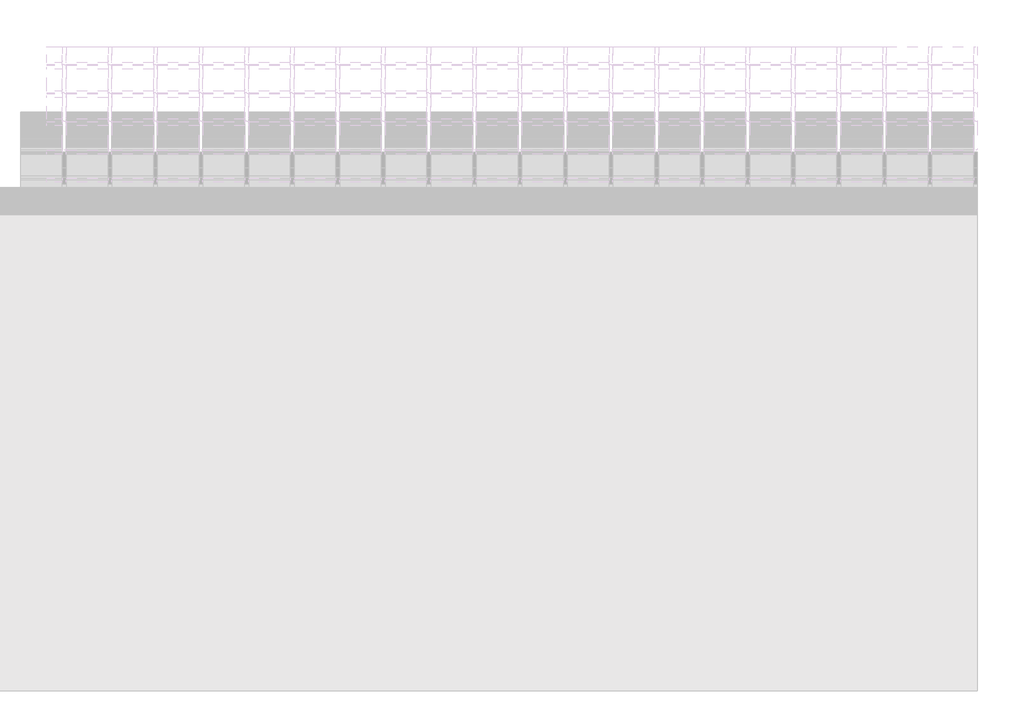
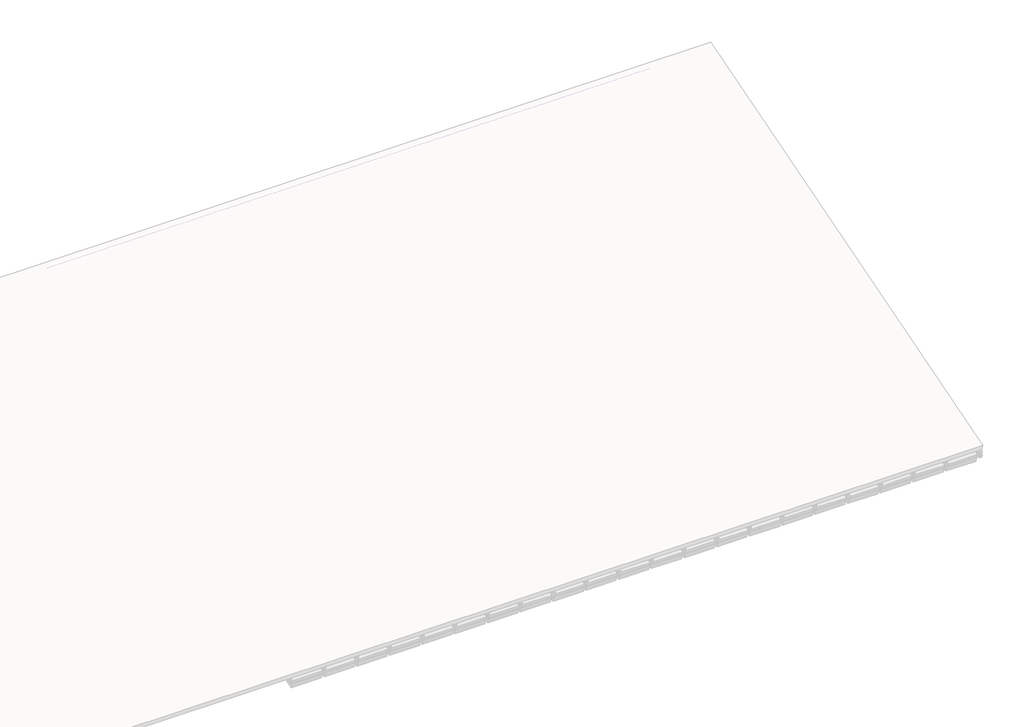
# One storey, part 48 of 57: 86 members, 38 plates.
"""IFC4 building model written with IfcOpenShell, lengths in millimetres."""

from ifc_helpers import new_model, si_unit, origin, place, context, project, spatial, transform, mapped, element, save
from components import rectangular_mullion_59984080, rectangular_mullion_2d2423ea, rectangular_mullion_caibro_e4384bba, rectangular_mullion_caibro_9bd7bc61, empty_system_panel_vazio_178faf58, empty_system_panel_vazio_2c78850d

model = new_model("IFC4")

# Units and contexts
model_context = context("Model", 3, world=origin())
ifc_project = project(units=[si_unit("LENGTHUNIT", "METRE", prefix="MILLI")], contexts=[model_context])

# Site, building, storey
site = spatial("IfcSite", under=ifc_project)
building = spatial("IfcBuilding", under=site)
storey = spatial("IfcBuildingStorey", under=building, Name="Nível 2", Elevation=4100.0)

# Members
placement = place(None, origin())
rectangular_mullion_shape = rectangular_mullion_59984080(model_context)
element("IfcMember", 1, ObjectType="Rectangular Mullion : Ripa", at=placement, inside=storey, context=model_context, shape_type="MappedRepresentation", body=[
    mapped(rectangular_mullion_shape, transform((38197.0207941, 10013.4695628, 4154.0900474), x_axis=(0.0, 0.9578262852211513, 0.2873478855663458), y_axis=(0.0, 0.2873478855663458, -0.9578262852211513), z_axis=(-1.0, 0.0, 0.0))),
])
element("IfcMember", 2, ObjectType="Rectangular Mullion : Ripa", at=placement, inside=storey, context=model_context, shape_type="MappedRepresentation", body=[
    mapped(rectangular_mullion_shape, transform((38794.0755505, 10013.4695628, 4154.0900474), x_axis=(0.0, 0.9578262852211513, 0.2873478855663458), y_axis=(0.0, 0.2873478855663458, -0.9578262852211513), z_axis=(-1.0, 0.0, 0.0))),
])
element("IfcMember", 3, ObjectType="Rectangular Mullion : Ripa", at=placement, inside=storey, context=model_context, shape_type="MappedRepresentation", body=[
    mapped(rectangular_mullion_shape, transform((39391.1303069, 10013.4695628, 4154.0900474), x_axis=(0.0, 0.9578262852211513, 0.2873478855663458), y_axis=(0.0, 0.2873478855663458, -0.9578262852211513), z_axis=(-1.0, 0.0, 0.0))),
])
element("IfcMember", 4, ObjectType="Rectangular Mullion : Ripa", at=placement, inside=storey, context=model_context, shape_type="MappedRepresentation", body=[
    mapped(rectangular_mullion_shape, transform((39988.1850634, 10013.4695628, 4154.0900474), x_axis=(0.0, 0.9578262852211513, 0.2873478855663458), y_axis=(0.0, 0.2873478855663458, -0.9578262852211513), z_axis=(-1.0, 0.0, 0.0))),
])
element("IfcMember", 5, ObjectType="Rectangular Mullion : Ripa", at=placement, inside=storey, context=model_context, shape_type="MappedRepresentation", body=[
    mapped(rectangular_mullion_shape, transform((38197.0207941, 10383.6468214, 4265.143225), x_axis=(0.0, 0.9578262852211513, 0.2873478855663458), y_axis=(0.0, 0.2873478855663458, -0.9578262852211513), z_axis=(-1.0, 0.0, 0.0))),
])
element("IfcMember", 6, ObjectType="Rectangular Mullion : Ripa", at=placement, inside=storey, context=model_context, shape_type="MappedRepresentation", body=[
    mapped(rectangular_mullion_shape, transform((38794.0755505, 10383.6468214, 4265.143225), x_axis=(0.0, 0.9578262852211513, 0.2873478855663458), y_axis=(0.0, 0.2873478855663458, -0.9578262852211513), z_axis=(-1.0, 0.0, 0.0))),
])
element("IfcMember", 7, ObjectType="Rectangular Mullion : Ripa", at=placement, inside=storey, context=model_context, shape_type="MappedRepresentation", body=[
    mapped(rectangular_mullion_shape, transform((39391.1303069, 10383.6468214, 4265.143225), x_axis=(0.0, 0.9578262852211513, 0.2873478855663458), y_axis=(0.0, 0.2873478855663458, -0.9578262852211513), z_axis=(-1.0, 0.0, 0.0))),
])
element("IfcMember", 8, ObjectType="Rectangular Mullion : Ripa", at=placement, inside=storey, context=model_context, shape_type="MappedRepresentation", body=[
    mapped(rectangular_mullion_shape, transform((39988.1850634, 10383.6468214, 4265.143225), x_axis=(0.0, 0.9578262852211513, 0.2873478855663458), y_axis=(0.0, 0.2873478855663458, -0.9578262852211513), z_axis=(-1.0, 0.0, 0.0))),
])
element("IfcMember", 9, ObjectType="Rectangular Mullion : Ripa", at=placement, inside=storey, context=model_context, shape_type="MappedRepresentation", body=[
    mapped(rectangular_mullion_shape, transform((38197.0207941, 10753.8240801, 4376.1964026), x_axis=(0.0, 0.9578262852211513, 0.2873478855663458), y_axis=(0.0, 0.2873478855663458, -0.9578262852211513), z_axis=(-1.0, 0.0, 0.0))),
])
element("IfcMember", 10, ObjectType="Rectangular Mullion : Ripa", at=placement, inside=storey, context=model_context, shape_type="MappedRepresentation", body=[
    mapped(rectangular_mullion_shape, transform((38794.0755505, 10753.8240801, 4376.1964026), x_axis=(0.0, 0.9578262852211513, 0.2873478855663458), y_axis=(0.0, 0.2873478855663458, -0.9578262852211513), z_axis=(-1.0, 0.0, 0.0))),
])
element("IfcMember", 11, ObjectType="Rectangular Mullion : Ripa", at=placement, inside=storey, context=model_context, shape_type="MappedRepresentation", body=[
    mapped(rectangular_mullion_shape, transform((39391.1303069, 10753.8240801, 4376.1964026), x_axis=(0.0, 0.9578262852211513, 0.2873478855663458), y_axis=(0.0, 0.2873478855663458, -0.9578262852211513), z_axis=(-1.0, 0.0, 0.0))),
])
element("IfcMember", 12, ObjectType="Rectangular Mullion : Ripa", at=placement, inside=storey, context=model_context, shape_type="MappedRepresentation", body=[
    mapped(rectangular_mullion_shape, transform((39988.1850634, 10753.8240801, 4376.1964026), x_axis=(0.0, 0.9578262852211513, 0.2873478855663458), y_axis=(0.0, 0.2873478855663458, -0.9578262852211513), z_axis=(-1.0, 0.0, 0.0))),
])
element("IfcMember", 13, ObjectType="Rectangular Mullion : Ripa", at=placement, inside=storey, context=model_context, shape_type="MappedRepresentation", body=[
    mapped(rectangular_mullion_shape, transform((37002.9112812, 11124.0013387, 4487.2495802), x_axis=(0.0, 0.9578262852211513, 0.2873478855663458), y_axis=(0.0, 0.2873478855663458, -0.9578262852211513), z_axis=(-1.0, 0.0, 0.0))),
])
element("IfcMember", 14, ObjectType="Rectangular Mullion : Ripa", at=placement, inside=storey, context=model_context, shape_type="MappedRepresentation", body=[
    mapped(rectangular_mullion_shape, transform((37599.9660377, 11124.0013387, 4487.2495802), x_axis=(0.0, 0.9578262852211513, 0.2873478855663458), y_axis=(0.0, 0.2873478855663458, -0.9578262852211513), z_axis=(-1.0, 0.0, 0.0))),
])
element("IfcMember", 15, ObjectType="Rectangular Mullion : Ripa", at=placement, inside=storey, context=model_context, shape_type="MappedRepresentation", body=[
    mapped(rectangular_mullion_shape, transform((38197.0207941, 11124.0013387, 4487.2495802), x_axis=(0.0, 0.9578262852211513, 0.2873478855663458), y_axis=(0.0, 0.2873478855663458, -0.9578262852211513), z_axis=(-1.0, 0.0, 0.0))),
])
element("IfcMember", 16, ObjectType="Rectangular Mullion : Ripa", at=placement, inside=storey, context=model_context, shape_type="MappedRepresentation", body=[
    mapped(rectangular_mullion_shape, transform((38794.0755505, 11124.0013387, 4487.2495802), x_axis=(0.0, 0.9578262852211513, 0.2873478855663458), y_axis=(0.0, 0.2873478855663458, -0.9578262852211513), z_axis=(-1.0, 0.0, 0.0))),
])
element("IfcMember", 17, ObjectType="Rectangular Mullion : Ripa", at=placement, inside=storey, context=model_context, shape_type="MappedRepresentation", body=[
    mapped(rectangular_mullion_shape, transform((39391.1303069, 11124.0013387, 4487.2495802), x_axis=(0.0, 0.9578262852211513, 0.2873478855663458), y_axis=(0.0, 0.2873478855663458, -0.9578262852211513), z_axis=(-1.0, 0.0, 0.0))),
])
element("IfcMember", 18, ObjectType="Rectangular Mullion : Ripa", at=placement, inside=storey, context=model_context, shape_type="MappedRepresentation", body=[
    mapped(rectangular_mullion_shape, transform((39988.1850634, 11124.0013387, 4487.2495802), x_axis=(0.0, 0.9578262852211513, 0.2873478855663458), y_axis=(0.0, 0.2873478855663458, -0.9578262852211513), z_axis=(-1.0, 0.0, 0.0))),
])
element("IfcMember", 19, ObjectType="Rectangular Mullion : Ripa", at=placement, inside=storey, context=model_context, shape_type="MappedRepresentation", body=[
    mapped(rectangular_mullion_shape, transform((37002.9112812, 11494.1785974, 4598.3027578), x_axis=(0.0, 0.9578262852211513, 0.2873478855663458), y_axis=(0.0, 0.2873478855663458, -0.9578262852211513), z_axis=(-1.0, 0.0, 0.0))),
])
element("IfcMember", 20, ObjectType="Rectangular Mullion : Ripa", at=placement, inside=storey, context=model_context, shape_type="MappedRepresentation", body=[
    mapped(rectangular_mullion_shape, transform((37599.9660377, 11494.1785974, 4598.3027578), x_axis=(0.0, 0.9578262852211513, 0.2873478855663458), y_axis=(0.0, 0.2873478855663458, -0.9578262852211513), z_axis=(-1.0, 0.0, 0.0))),
])
element("IfcMember", 21, ObjectType="Rectangular Mullion : Ripa", at=placement, inside=storey, context=model_context, shape_type="MappedRepresentation", body=[
    mapped(rectangular_mullion_shape, transform((38197.0207941, 11494.1785974, 4598.3027578), x_axis=(0.0, 0.9578262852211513, 0.2873478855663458), y_axis=(0.0, 0.2873478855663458, -0.9578262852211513), z_axis=(-1.0, 0.0, 0.0))),
])
element("IfcMember", 22, ObjectType="Rectangular Mullion : Ripa", at=placement, inside=storey, context=model_context, shape_type="MappedRepresentation", body=[
    mapped(rectangular_mullion_shape, transform((38794.0755505, 11494.1785974, 4598.3027578), x_axis=(0.0, 0.9578262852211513, 0.2873478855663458), y_axis=(0.0, 0.2873478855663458, -0.9578262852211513), z_axis=(-1.0, 0.0, 0.0))),
])
element("IfcMember", 23, ObjectType="Rectangular Mullion : Ripa", at=placement, inside=storey, context=model_context, shape_type="MappedRepresentation", body=[
    mapped(rectangular_mullion_shape, transform((39391.1303069, 11494.1785974, 4598.3027578), x_axis=(0.0, 0.9578262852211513, 0.2873478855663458), y_axis=(0.0, 0.2873478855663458, -0.9578262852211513), z_axis=(-1.0, 0.0, 0.0))),
])
element("IfcMember", 24, ObjectType="Rectangular Mullion : Ripa", at=placement, inside=storey, context=model_context, shape_type="MappedRepresentation", body=[
    mapped(rectangular_mullion_shape, transform((39988.1850634, 11494.1785974, 4598.3027578), x_axis=(0.0, 0.9578262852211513, 0.2873478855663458), y_axis=(0.0, 0.2873478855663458, -0.9578262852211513), z_axis=(-1.0, 0.0, 0.0))),
])
element("IfcMember", 25, ObjectType="Rectangular Mullion : Ripa", at=placement, inside=storey, context=model_context, shape_type="MappedRepresentation", body=[
    mapped(rectangular_mullion_shape, transform((37002.9112812, 11864.3558561, 4709.3559354), x_axis=(0.0, 0.9578262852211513, 0.2873478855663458), y_axis=(0.0, 0.2873478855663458, -0.9578262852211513), z_axis=(-1.0, 0.0, 0.0))),
])
element("IfcMember", 26, ObjectType="Rectangular Mullion : Ripa", at=placement, inside=storey, context=model_context, shape_type="MappedRepresentation", body=[
    mapped(rectangular_mullion_shape, transform((37599.9660377, 11864.3558561, 4709.3559354), x_axis=(0.0, 0.9578262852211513, 0.2873478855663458), y_axis=(0.0, 0.2873478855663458, -0.9578262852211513), z_axis=(-1.0, 0.0, 0.0))),
])
element("IfcMember", 27, ObjectType="Rectangular Mullion : Ripa", at=placement, inside=storey, context=model_context, shape_type="MappedRepresentation", body=[
    mapped(rectangular_mullion_shape, transform((38197.0207941, 11864.3558561, 4709.3559354), x_axis=(0.0, 0.9578262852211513, 0.2873478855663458), y_axis=(0.0, 0.2873478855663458, -0.9578262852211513), z_axis=(-1.0, 0.0, 0.0))),
])
element("IfcMember", 28, ObjectType="Rectangular Mullion : Ripa", at=placement, inside=storey, context=model_context, shape_type="MappedRepresentation", body=[
    mapped(rectangular_mullion_shape, transform((38794.0755505, 11864.3558561, 4709.3559354), x_axis=(0.0, 0.9578262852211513, 0.2873478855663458), y_axis=(0.0, 0.2873478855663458, -0.9578262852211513), z_axis=(-1.0, 0.0, 0.0))),
])
element("IfcMember", 29, ObjectType="Rectangular Mullion : Ripa", at=placement, inside=storey, context=model_context, shape_type="MappedRepresentation", body=[
    mapped(rectangular_mullion_shape, transform((39391.1303069, 11864.3558561, 4709.3559354), x_axis=(0.0, 0.9578262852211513, 0.2873478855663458), y_axis=(0.0, 0.2873478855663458, -0.9578262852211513), z_axis=(-1.0, 0.0, 0.0))),
])
element("IfcMember", 30, ObjectType="Rectangular Mullion : Ripa", at=placement, inside=storey, context=model_context, shape_type="MappedRepresentation", body=[
    mapped(rectangular_mullion_shape, transform((39988.1850634, 11864.3558561, 4709.3559354), x_axis=(0.0, 0.9578262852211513, 0.2873478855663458), y_axis=(0.0, 0.2873478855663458, -0.9578262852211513), z_axis=(-1.0, 0.0, 0.0))),
])
element("IfcMember", 31, ObjectType="Rectangular Mullion : Ripa", at=placement, inside=storey, context=model_context, shape_type="MappedRepresentation", body=[
    mapped(rectangular_mullion_shape, transform((32226.4732298, 12234.5331147, 4820.409113), x_axis=(0.0, 0.9578262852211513, 0.2873478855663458), y_axis=(0.0, 0.2873478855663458, -0.9578262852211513), z_axis=(-1.0, 0.0, 0.0))),
])
element("IfcMember", 32, ObjectType="Rectangular Mullion : Ripa", at=placement, inside=storey, context=model_context, shape_type="MappedRepresentation", body=[
    mapped(rectangular_mullion_shape, transform((32823.5279863, 12234.5331147, 4820.409113), x_axis=(0.0, 0.9578262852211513, 0.2873478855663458), y_axis=(0.0, 0.2873478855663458, -0.9578262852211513), z_axis=(-1.0, 0.0, 0.0))),
])
element("IfcMember", 33, ObjectType="Rectangular Mullion : Ripa", at=placement, inside=storey, context=model_context, shape_type="MappedRepresentation", body=[
    mapped(rectangular_mullion_shape, transform((32226.4732298, 12604.7103734, 4931.4622906), x_axis=(0.0, 0.9578262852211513, 0.2873478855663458), y_axis=(0.0, 0.2873478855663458, -0.9578262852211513), z_axis=(-1.0, 0.0, 0.0))),
])
element("IfcMember", 34, ObjectType="Rectangular Mullion : Ripa", at=placement, inside=storey, context=model_context, shape_type="MappedRepresentation", body=[
    mapped(rectangular_mullion_shape, transform((32823.5279863, 12604.7103734, 4931.4622906), x_axis=(0.0, 0.9578262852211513, 0.2873478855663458), y_axis=(0.0, 0.2873478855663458, -0.9578262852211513), z_axis=(-1.0, 0.0, 0.0))),
])
element("IfcMember", 35, ObjectType="Rectangular Mullion : Ripa", at=placement, inside=storey, context=model_context, shape_type="MappedRepresentation", body=[
    mapped(rectangular_mullion_shape, transform((32226.4732298, 12974.8876321, 5042.5154682), x_axis=(0.0, 0.9578262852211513, 0.2873478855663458), y_axis=(0.0, 0.2873478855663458, -0.9578262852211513), z_axis=(-1.0, 0.0, 0.0))),
])
element("IfcMember", 36, ObjectType="Rectangular Mullion : Ripa", at=placement, inside=storey, context=model_context, shape_type="MappedRepresentation", body=[
    mapped(rectangular_mullion_shape, transform((32823.5279863, 12974.8876321, 5042.5154682), x_axis=(0.0, 0.9578262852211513, 0.2873478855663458), y_axis=(0.0, 0.2873478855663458, -0.9578262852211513), z_axis=(-1.0, 0.0, 0.0))),
])
rectangular_mullion_2_shape = rectangular_mullion_2d2423ea(model_context)
element("IfcMember", 37, ObjectType="Rectangular Mullion : Terça", at=placement, inside=storey, context=model_context, shape_type="MappedRepresentation", body=[
    mapped(rectangular_mullion_2_shape, transform((36405.8565248, 11285.144311, 4472.9506328), x_axis=(0.0, 0.9578262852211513, 0.2873478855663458), y_axis=(0.0, 0.2873478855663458, -0.9578262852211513), z_axis=(-1.0, 0.0, 0.0))),
])
element("IfcMember", 38, ObjectType="Rectangular Mullion : Terça", at=placement, inside=storey, context=model_context, shape_type="MappedRepresentation", body=[
    mapped(rectangular_mullion_2_shape, transform((37002.9112812, 11285.144311, 4472.9506328), x_axis=(0.0, 0.9578262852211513, 0.2873478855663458), y_axis=(0.0, 0.2873478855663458, -0.9578262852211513), z_axis=(-1.0, 0.0, 0.0))),
])
element("IfcMember", 39, ObjectType="Rectangular Mullion : Terça", at=placement, inside=storey, context=model_context, shape_type="MappedRepresentation", body=[
    mapped(rectangular_mullion_2_shape, transform((37599.9660377, 11285.144311, 4472.9506328), x_axis=(0.0, 0.9578262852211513, 0.2873478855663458), y_axis=(0.0, 0.2873478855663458, -0.9578262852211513), z_axis=(-1.0, 0.0, 0.0))),
])
element("IfcMember", 40, ObjectType="Rectangular Mullion : Terça", at=placement, inside=storey, context=model_context, shape_type="MappedRepresentation", body=[
    mapped(rectangular_mullion_2_shape, transform((38197.0207941, 11285.144311, 4472.9506328), x_axis=(0.0, 0.9578262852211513, 0.2873478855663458), y_axis=(0.0, 0.2873478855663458, -0.9578262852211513), z_axis=(-1.0, 0.0, 0.0))),
])
element("IfcMember", 41, ObjectType="Rectangular Mullion : Terça", at=placement, inside=storey, context=model_context, shape_type="MappedRepresentation", body=[
    mapped(rectangular_mullion_2_shape, transform((38794.0755505, 11285.144311, 4472.9506328), x_axis=(0.0, 0.9578262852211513, 0.2873478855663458), y_axis=(0.0, 0.2873478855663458, -0.9578262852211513), z_axis=(-1.0, 0.0, 0.0))),
])
element("IfcMember", 42, ObjectType="Rectangular Mullion : Terça", at=placement, inside=storey, context=model_context, shape_type="MappedRepresentation", body=[
    mapped(rectangular_mullion_2_shape, transform((39391.1303069, 11285.144311, 4472.9506328), x_axis=(0.0, 0.9578262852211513, 0.2873478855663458), y_axis=(0.0, 0.2873478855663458, -0.9578262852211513), z_axis=(-1.0, 0.0, 0.0))),
])
element("IfcMember", 43, ObjectType="Rectangular Mullion : Terça", at=placement, inside=storey, context=model_context, shape_type="MappedRepresentation", body=[
    mapped(rectangular_mullion_2_shape, transform((39988.1850634, 11285.144311, 4472.9506328), x_axis=(0.0, 0.9578262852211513, 0.2873478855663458), y_axis=(0.0, 0.2873478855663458, -0.9578262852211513), z_axis=(-1.0, 0.0, 0.0))),
])
rectangular_mullion_caibro_shape = rectangular_mullion_caibro_e4384bba(model_context)
element("IfcMember", 44, ObjectType="Rectangular Mullion : Caibro", at=placement, inside=storey, context=model_context, shape_type="MappedRepresentation", body=[
    mapped(rectangular_mullion_caibro_shape, transform((32201.4732298, 12234.5331147, 4820.409113), x_axis=(1.0, 0.0, 0.0), y_axis=(0.0, 0.2873478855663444, -0.9578262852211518), z_axis=(0.0, 0.9578262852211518, 0.2873478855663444))),
])
element("IfcMember", 45, ObjectType="Rectangular Mullion : Caibro", at=placement, inside=storey, context=model_context, shape_type="MappedRepresentation", body=[
    mapped(rectangular_mullion_caibro_shape, transform((32201.4732298, 12604.7103734, 4931.4622906), x_axis=(1.0, 0.0, 0.0), y_axis=(0.0, 0.28734788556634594, -0.9578262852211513), z_axis=(0.0, 0.9578262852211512, 0.2873478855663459))),
])
element("IfcMember", 46, ObjectType="Rectangular Mullion : Caibro", at=placement, inside=storey, context=model_context, shape_type="MappedRepresentation", body=[
    mapped(rectangular_mullion_caibro_shape, transform((32201.4732298, 12974.8876321, 5042.5154682), x_axis=(1.0, 0.0, 0.0), y_axis=(0.0, 0.28734788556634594, -0.9578262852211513), z_axis=(0.0, 0.9578262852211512, 0.2873478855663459))),
])
element("IfcMember", 47, ObjectType="Rectangular Mullion : Caibro", at=placement, inside=storey, context=model_context, shape_type="MappedRepresentation", body=[
    mapped(rectangular_mullion_caibro_shape, transform((32798.5279863, 12234.5331147, 4820.409113), x_axis=(1.0, 0.0, 0.0), y_axis=(0.0, 0.2873478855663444, -0.9578262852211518), z_axis=(0.0, 0.9578262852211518, 0.2873478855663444))),
])
element("IfcMember", 48, ObjectType="Rectangular Mullion : Caibro", at=placement, inside=storey, context=model_context, shape_type="MappedRepresentation", body=[
    mapped(rectangular_mullion_caibro_shape, transform((32798.5279863, 12604.7103734, 4931.4622906), x_axis=(1.0, 0.0, 0.0), y_axis=(0.0, 0.28734788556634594, -0.9578262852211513), z_axis=(0.0, 0.9578262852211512, 0.2873478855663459))),
])
element("IfcMember", 49, ObjectType="Rectangular Mullion : Caibro", at=placement, inside=storey, context=model_context, shape_type="MappedRepresentation", body=[
    mapped(rectangular_mullion_caibro_shape, transform((32798.5279863, 12974.8876321, 5042.5154682), x_axis=(1.0, 0.0, 0.0), y_axis=(0.0, 0.28734788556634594, -0.9578262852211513), z_axis=(0.0, 0.9578262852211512, 0.2873478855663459))),
])
element("IfcMember", 50, ObjectType="Rectangular Mullion : Caibro", at=placement, inside=storey, context=model_context, shape_type="MappedRepresentation", body=[
    mapped(rectangular_mullion_caibro_shape, transform((33395.5827427, 12234.5331147, 4820.409113), x_axis=(1.0, 0.0, 0.0), y_axis=(0.0, 0.2873478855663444, -0.9578262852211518), z_axis=(0.0, 0.9578262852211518, 0.2873478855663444))),
])
element("IfcMember", 51, ObjectType="Rectangular Mullion : Caibro", at=placement, inside=storey, context=model_context, shape_type="MappedRepresentation", body=[
    mapped(rectangular_mullion_caibro_shape, transform((33395.5827427, 12604.7103734, 4931.4622906), x_axis=(1.0, 0.0, 0.0), y_axis=(0.0, 0.2873478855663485, -0.9578262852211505), z_axis=(0.0, 0.9578262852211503, 0.28734788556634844))),
])
element("IfcMember", 52, ObjectType="Rectangular Mullion : Caibro", at=placement, inside=storey, context=model_context, shape_type="MappedRepresentation", body=[
    mapped(rectangular_mullion_caibro_shape, transform((33395.5827427, 12974.8876321, 5042.5154682), x_axis=(1.0, 0.0, 0.0), y_axis=(0.0, 0.2873478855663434, -0.957826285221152), z_axis=(0.0, 0.957826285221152, 0.2873478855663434))),
])
element("IfcMember", 53, ObjectType="Rectangular Mullion : Caibro", at=placement, inside=storey, context=model_context, shape_type="MappedRepresentation", body=[
    mapped(rectangular_mullion_caibro_shape, transform((33992.6374991, 12234.5331147, 4820.409113), x_axis=(1.0, 0.0, 0.0), y_axis=(0.0, 0.2873478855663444, -0.9578262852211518), z_axis=(0.0, 0.9578262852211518, 0.2873478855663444))),
])
element("IfcMember", 54, ObjectType="Rectangular Mullion : Caibro", at=placement, inside=storey, context=model_context, shape_type="MappedRepresentation", body=[
    mapped(rectangular_mullion_caibro_shape, transform((33992.6374991, 12604.7103734, 4931.4622906), x_axis=(1.0, 0.0, 0.0), y_axis=(0.0, 0.2873478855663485, -0.9578262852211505), z_axis=(0.0, 0.9578262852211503, 0.28734788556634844))),
])
element("IfcMember", 55, ObjectType="Rectangular Mullion : Caibro", at=placement, inside=storey, context=model_context, shape_type="MappedRepresentation", body=[
    mapped(rectangular_mullion_caibro_shape, transform((37574.9660377, 11124.0013387, 4487.2495802), x_axis=(1.0, 0.0, 0.0), y_axis=(0.0, 0.2873478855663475, -0.9578262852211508), z_axis=(0.0, 0.9578262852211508, 0.2873478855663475))),
])
element("IfcMember", 56, ObjectType="Rectangular Mullion : Caibro", at=placement, inside=storey, context=model_context, shape_type="MappedRepresentation", body=[
    mapped(rectangular_mullion_caibro_shape, transform((37574.9660377, 11494.1785974, 4598.3027578), x_axis=(1.0, 0.0, 0.0), y_axis=(0.0, 0.28734788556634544, -0.9578262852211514), z_axis=(0.0, 0.9578262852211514, 0.28734788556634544))),
])
element("IfcMember", 57, ObjectType="Rectangular Mullion : Caibro", at=placement, inside=storey, context=model_context, shape_type="MappedRepresentation", body=[
    mapped(rectangular_mullion_caibro_shape, transform((37574.9660377, 11864.3558561, 4709.3559354), x_axis=(1.0, 0.0, 0.0), y_axis=(0.0, 0.28734788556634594, -0.9578262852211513), z_axis=(0.0, 0.9578262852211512, 0.2873478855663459))),
])
element("IfcMember", 58, ObjectType="Rectangular Mullion : Caibro", at=placement, inside=storey, context=model_context, shape_type="MappedRepresentation", body=[
    mapped(rectangular_mullion_caibro_shape, transform((38172.0207941, 10013.4695628, 4154.0900474), x_axis=(1.0, 0.0, 0.0), y_axis=(0.0, 0.28734788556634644, -0.9578262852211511), z_axis=(0.0, 0.957826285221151, 0.2873478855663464))),
])
element("IfcMember", 59, ObjectType="Rectangular Mullion : Caibro", at=placement, inside=storey, context=model_context, shape_type="MappedRepresentation", body=[
    mapped(rectangular_mullion_caibro_shape, transform((38172.0207941, 10383.6468214, 4265.143225), x_axis=(1.0, 0.0, 0.0), y_axis=(0.0, 0.28734788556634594, -0.9578262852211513), z_axis=(0.0, 0.9578262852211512, 0.2873478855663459))),
])
element("IfcMember", 60, ObjectType="Rectangular Mullion : Caibro", at=placement, inside=storey, context=model_context, shape_type="MappedRepresentation", body=[
    mapped(rectangular_mullion_caibro_shape, transform((38172.0207941, 10753.8240801, 4376.1964026), x_axis=(1.0, 0.0, 0.0), y_axis=(0.0, 0.28734788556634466, -0.9578262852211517), z_axis=(0.0, 0.9578262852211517, 0.28734788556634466))),
])
element("IfcMember", 61, ObjectType="Rectangular Mullion : Caibro", at=placement, inside=storey, context=model_context, shape_type="MappedRepresentation", body=[
    mapped(rectangular_mullion_caibro_shape, transform((38172.0207941, 11124.0013387, 4487.2495802), x_axis=(1.0, 0.0, 0.0), y_axis=(0.0, 0.2873478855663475, -0.9578262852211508), z_axis=(0.0, 0.9578262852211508, 0.2873478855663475))),
])
element("IfcMember", 62, ObjectType="Rectangular Mullion : Caibro", at=placement, inside=storey, context=model_context, shape_type="MappedRepresentation", body=[
    mapped(rectangular_mullion_caibro_shape, transform((38172.0207941, 11494.1785974, 4598.3027578), x_axis=(1.0, 0.0, 0.0), y_axis=(0.0, 0.28734788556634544, -0.9578262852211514), z_axis=(0.0, 0.9578262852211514, 0.28734788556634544))),
])
element("IfcMember", 63, ObjectType="Rectangular Mullion : Caibro", at=placement, inside=storey, context=model_context, shape_type="MappedRepresentation", body=[
    mapped(rectangular_mullion_caibro_shape, transform((38172.0207941, 11864.3558561, 4709.3559354), x_axis=(1.0, 0.0, 0.0), y_axis=(0.0, 0.28734788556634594, -0.9578262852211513), z_axis=(0.0, 0.9578262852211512, 0.2873478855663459))),
])
element("IfcMember", 64, ObjectType="Rectangular Mullion : Caibro", at=placement, inside=storey, context=model_context, shape_type="MappedRepresentation", body=[
    mapped(rectangular_mullion_caibro_shape, transform((38769.0755505, 10013.4695628, 4154.0900474), x_axis=(1.0, 0.0, 0.0), y_axis=(0.0, 0.28734788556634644, -0.9578262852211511), z_axis=(0.0, 0.957826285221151, 0.2873478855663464))),
])
element("IfcMember", 65, ObjectType="Rectangular Mullion : Caibro", at=placement, inside=storey, context=model_context, shape_type="MappedRepresentation", body=[
    mapped(rectangular_mullion_caibro_shape, transform((38769.0755505, 10383.6468214, 4265.143225), x_axis=(1.0, 0.0, 0.0), y_axis=(0.0, 0.28734788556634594, -0.9578262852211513), z_axis=(0.0, 0.9578262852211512, 0.2873478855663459))),
])
element("IfcMember", 66, ObjectType="Rectangular Mullion : Caibro", at=placement, inside=storey, context=model_context, shape_type="MappedRepresentation", body=[
    mapped(rectangular_mullion_caibro_shape, transform((38769.0755505, 10753.8240801, 4376.1964026), x_axis=(1.0, 0.0, 0.0), y_axis=(0.0, 0.28734788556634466, -0.9578262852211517), z_axis=(0.0, 0.9578262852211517, 0.28734788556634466))),
])
element("IfcMember", 67, ObjectType="Rectangular Mullion : Caibro", at=placement, inside=storey, context=model_context, shape_type="MappedRepresentation", body=[
    mapped(rectangular_mullion_caibro_shape, transform((38769.0755505, 11124.0013387, 4487.2495802), x_axis=(1.0, 0.0, 0.0), y_axis=(0.0, 0.2873478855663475, -0.9578262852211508), z_axis=(0.0, 0.9578262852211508, 0.2873478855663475))),
])
element("IfcMember", 68, ObjectType="Rectangular Mullion : Caibro", at=placement, inside=storey, context=model_context, shape_type="MappedRepresentation", body=[
    mapped(rectangular_mullion_caibro_shape, transform((38769.0755505, 11494.1785974, 4598.3027578), x_axis=(1.0, 0.0, 0.0), y_axis=(0.0, 0.28734788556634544, -0.9578262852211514), z_axis=(0.0, 0.9578262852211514, 0.28734788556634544))),
])
element("IfcMember", 69, ObjectType="Rectangular Mullion : Caibro", at=placement, inside=storey, context=model_context, shape_type="MappedRepresentation", body=[
    mapped(rectangular_mullion_caibro_shape, transform((38769.0755505, 11864.3558561, 4709.3559354), x_axis=(1.0, 0.0, 0.0), y_axis=(0.0, 0.28734788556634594, -0.9578262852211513), z_axis=(0.0, 0.9578262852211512, 0.2873478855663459))),
])
element("IfcMember", 70, ObjectType="Rectangular Mullion : Caibro", at=placement, inside=storey, context=model_context, shape_type="MappedRepresentation", body=[
    mapped(rectangular_mullion_caibro_shape, transform((39366.1303069, 10013.4695628, 4154.0900474), x_axis=(1.0, 0.0, 0.0), y_axis=(0.0, 0.28734788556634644, -0.9578262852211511), z_axis=(0.0, 0.957826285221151, 0.2873478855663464))),
])
element("IfcMember", 71, ObjectType="Rectangular Mullion : Caibro", at=placement, inside=storey, context=model_context, shape_type="MappedRepresentation", body=[
    mapped(rectangular_mullion_caibro_shape, transform((39366.1303069, 10383.6468214, 4265.143225), x_axis=(1.0, 0.0, 0.0), y_axis=(0.0, 0.28734788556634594, -0.9578262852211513), z_axis=(0.0, 0.9578262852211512, 0.2873478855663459))),
])
element("IfcMember", 72, ObjectType="Rectangular Mullion : Caibro", at=placement, inside=storey, context=model_context, shape_type="MappedRepresentation", body=[
    mapped(rectangular_mullion_caibro_shape, transform((39366.1303069, 10753.8240801, 4376.1964026), x_axis=(1.0, 0.0, 0.0), y_axis=(0.0, 0.28734788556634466, -0.9578262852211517), z_axis=(0.0, 0.9578262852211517, 0.28734788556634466))),
])
element("IfcMember", 73, ObjectType="Rectangular Mullion : Caibro", at=placement, inside=storey, context=model_context, shape_type="MappedRepresentation", body=[
    mapped(rectangular_mullion_caibro_shape, transform((39366.1303069, 11124.0013387, 4487.2495802), x_axis=(1.0, 0.0, 0.0), y_axis=(0.0, 0.2873478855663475, -0.9578262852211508), z_axis=(0.0, 0.9578262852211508, 0.2873478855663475))),
])
element("IfcMember", 74, ObjectType="Rectangular Mullion : Caibro", at=placement, inside=storey, context=model_context, shape_type="MappedRepresentation", body=[
    mapped(rectangular_mullion_caibro_shape, transform((39366.1303069, 11494.1785974, 4598.3027578), x_axis=(1.0, 0.0, 0.0), y_axis=(0.0, 0.28734788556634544, -0.9578262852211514), z_axis=(0.0, 0.9578262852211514, 0.28734788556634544))),
])
element("IfcMember", 75, ObjectType="Rectangular Mullion : Caibro", at=placement, inside=storey, context=model_context, shape_type="MappedRepresentation", body=[
    mapped(rectangular_mullion_caibro_shape, transform((39366.1303069, 11864.3558561, 4709.3559354), x_axis=(1.0, 0.0, 0.0), y_axis=(0.0, 0.28734788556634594, -0.9578262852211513), z_axis=(0.0, 0.9578262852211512, 0.2873478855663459))),
])
element("IfcMember", 76, ObjectType="Rectangular Mullion : Caibro", at=placement, inside=storey, context=model_context, shape_type="MappedRepresentation", body=[
    mapped(rectangular_mullion_caibro_shape, transform((39963.1850634, 10013.4695628, 4154.0900474), x_axis=(1.0, 0.0, 0.0), y_axis=(0.0, 0.28734788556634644, -0.9578262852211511), z_axis=(0.0, 0.957826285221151, 0.2873478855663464))),
])
element("IfcMember", 77, ObjectType="Rectangular Mullion : Caibro", at=placement, inside=storey, context=model_context, shape_type="MappedRepresentation", body=[
    mapped(rectangular_mullion_caibro_shape, transform((39963.1850634, 10383.6468214, 4265.143225), x_axis=(1.0, 0.0, 0.0), y_axis=(0.0, 0.28734788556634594, -0.9578262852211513), z_axis=(0.0, 0.9578262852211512, 0.2873478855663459))),
])
element("IfcMember", 78, ObjectType="Rectangular Mullion : Caibro", at=placement, inside=storey, context=model_context, shape_type="MappedRepresentation", body=[
    mapped(rectangular_mullion_caibro_shape, transform((39963.1850634, 10753.8240801, 4376.1964026), x_axis=(1.0, 0.0, 0.0), y_axis=(0.0, 0.28734788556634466, -0.9578262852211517), z_axis=(0.0, 0.9578262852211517, 0.28734788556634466))),
])
element("IfcMember", 79, ObjectType="Rectangular Mullion : Caibro", at=placement, inside=storey, context=model_context, shape_type="MappedRepresentation", body=[
    mapped(rectangular_mullion_caibro_shape, transform((39963.1850634, 11124.0013387, 4487.2495802), x_axis=(1.0, 0.0, 0.0), y_axis=(0.0, 0.2873478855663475, -0.9578262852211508), z_axis=(0.0, 0.9578262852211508, 0.2873478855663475))),
])
element("IfcMember", 80, ObjectType="Rectangular Mullion : Caibro", at=placement, inside=storey, context=model_context, shape_type="MappedRepresentation", body=[
    mapped(rectangular_mullion_caibro_shape, transform((39963.1850634, 11494.1785974, 4598.3027578), x_axis=(1.0, 0.0, 0.0), y_axis=(0.0, 0.28734788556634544, -0.9578262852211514), z_axis=(0.0, 0.9578262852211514, 0.28734788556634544))),
])
element("IfcMember", 81, ObjectType="Rectangular Mullion : Caibro", at=placement, inside=storey, context=model_context, shape_type="MappedRepresentation", body=[
    mapped(rectangular_mullion_caibro_shape, transform((39963.1850634, 11864.3558561, 4709.3559354), x_axis=(1.0, 0.0, 0.0), y_axis=(0.0, 0.28734788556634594, -0.9578262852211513), z_axis=(0.0, 0.9578262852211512, 0.2873478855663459))),
])
rectangular_mullion_caibro_2_shape = rectangular_mullion_caibro_9bd7bc61(model_context)
element("IfcMember", 82, ObjectType="Rectangular Mullion : Caibro", at=placement, inside=storey, context=model_context, shape_type="MappedRepresentation", body=[
    mapped(rectangular_mullion_caibro_2_shape, transform((37574.9660377, 11285.144311, 4472.9506328), x_axis=(1.0, 0.0, 0.0), y_axis=(0.0, 0.28734788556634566, -0.9578262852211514), z_axis=(0.0, 0.9578262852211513, 0.2873478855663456))),
])
element("IfcMember", 83, ObjectType="Rectangular Mullion : Caibro", at=placement, inside=storey, context=model_context, shape_type="MappedRepresentation", body=[
    mapped(rectangular_mullion_caibro_2_shape, transform((38172.0207941, 11285.144311, 4472.9506328), x_axis=(1.0, 0.0, 0.0), y_axis=(0.0, 0.28734788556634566, -0.9578262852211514), z_axis=(0.0, 0.9578262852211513, 0.2873478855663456))),
])
element("IfcMember", 84, ObjectType="Rectangular Mullion : Caibro", at=placement, inside=storey, context=model_context, shape_type="MappedRepresentation", body=[
    mapped(rectangular_mullion_caibro_2_shape, transform((38769.0755505, 11285.144311, 4472.9506328), x_axis=(1.0, 0.0, 0.0), y_axis=(0.0, 0.28734788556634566, -0.9578262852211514), z_axis=(0.0, 0.9578262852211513, 0.2873478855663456))),
])
element("IfcMember", 85, ObjectType="Rectangular Mullion : Caibro", at=placement, inside=storey, context=model_context, shape_type="MappedRepresentation", body=[
    mapped(rectangular_mullion_caibro_2_shape, transform((39366.1303069, 11285.144311, 4472.9506328), x_axis=(1.0, 0.0, 0.0), y_axis=(0.0, 0.28734788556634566, -0.9578262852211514), z_axis=(0.0, 0.9578262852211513, 0.2873478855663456))),
])
element("IfcMember", 86, ObjectType="Rectangular Mullion : Caibro", at=placement, inside=storey, context=model_context, shape_type="MappedRepresentation", body=[
    mapped(rectangular_mullion_caibro_2_shape, transform((39963.1850634, 11285.144311, 4472.9506328), x_axis=(1.0, 0.0, 0.0), y_axis=(0.0, 0.28734788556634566, -0.9578262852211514), z_axis=(0.0, 0.9578262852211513, 0.2873478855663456))),
])

# Plates
empty_system_panel_vazio_shape = empty_system_panel_vazio_178faf58(model_context)
element("IfcPlate", 87, ObjectType="Empty System Panel : Vazio", at=placement, inside=storey, context=model_context, shape_type="MappedRepresentation", body=[
    mapped(empty_system_panel_vazio_shape, transform((38470.5481723, 10013.4695628, 4154.0900474), x_axis=(1.0, 0.0, 0.0), y_axis=(0.0, 0.2873478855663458, -0.9578262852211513), z_axis=(0.0, 0.9578262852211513, 0.2873478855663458))),
])
element("IfcPlate", 88, ObjectType="Empty System Panel : Vazio", at=placement, inside=storey, context=model_context, shape_type="MappedRepresentation", body=[
    mapped(empty_system_panel_vazio_shape, transform((39067.6029287, 10013.4695628, 4154.0900474), x_axis=(1.0, 0.0, 0.0), y_axis=(0.0, 0.2873478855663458, -0.9578262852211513), z_axis=(0.0, 0.9578262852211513, 0.2873478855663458))),
])
element("IfcPlate", 89, ObjectType="Empty System Panel : Vazio", at=placement, inside=storey, context=model_context, shape_type="MappedRepresentation", body=[
    mapped(empty_system_panel_vazio_shape, transform((39664.6576851, 10013.4695628, 4154.0900474), x_axis=(1.0, 0.0, 0.0), y_axis=(0.0, 0.2873478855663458, -0.9578262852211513), z_axis=(0.0, 0.9578262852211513, 0.2873478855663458))),
])
element("IfcPlate", 90, ObjectType="Empty System Panel : Vazio", at=placement, inside=storey, context=model_context, shape_type="MappedRepresentation", body=[
    mapped(empty_system_panel_vazio_shape, transform((38470.5481723, 10383.6468214, 4265.143225), x_axis=(1.0, 0.0, 0.0), y_axis=(0.0, 0.2873478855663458, -0.9578262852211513), z_axis=(0.0, 0.9578262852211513, 0.2873478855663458))),
])
element("IfcPlate", 91, ObjectType="Empty System Panel : Vazio", at=placement, inside=storey, context=model_context, shape_type="MappedRepresentation", body=[
    mapped(empty_system_panel_vazio_shape, transform((39067.6029287, 10383.6468214, 4265.143225), x_axis=(1.0, 0.0, 0.0), y_axis=(0.0, 0.2873478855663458, -0.9578262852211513), z_axis=(0.0, 0.9578262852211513, 0.2873478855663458))),
])
element("IfcPlate", 92, ObjectType="Empty System Panel : Vazio", at=placement, inside=storey, context=model_context, shape_type="MappedRepresentation", body=[
    mapped(empty_system_panel_vazio_shape, transform((39664.6576851, 10383.6468214, 4265.143225), x_axis=(1.0, 0.0, 0.0), y_axis=(0.0, 0.2873478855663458, -0.9578262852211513), z_axis=(0.0, 0.9578262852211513, 0.2873478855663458))),
])
element("IfcPlate", 93, ObjectType="Empty System Panel : Vazio", at=placement, inside=storey, context=model_context, shape_type="MappedRepresentation", body=[
    mapped(empty_system_panel_vazio_shape, transform((38470.5481723, 10753.8240801, 4376.1964026), x_axis=(1.0, 0.0, 0.0), y_axis=(0.0, 0.2873478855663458, -0.9578262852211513), z_axis=(0.0, 0.9578262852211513, 0.2873478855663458))),
])
element("IfcPlate", 94, ObjectType="Empty System Panel : Vazio", at=placement, inside=storey, context=model_context, shape_type="MappedRepresentation", body=[
    mapped(empty_system_panel_vazio_shape, transform((39067.6029287, 10753.8240801, 4376.1964026), x_axis=(1.0, 0.0, 0.0), y_axis=(0.0, 0.2873478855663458, -0.9578262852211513), z_axis=(0.0, 0.9578262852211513, 0.2873478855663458))),
])
element("IfcPlate", 95, ObjectType="Empty System Panel : Vazio", at=placement, inside=storey, context=model_context, shape_type="MappedRepresentation", body=[
    mapped(empty_system_panel_vazio_shape, transform((39664.6576851, 10753.8240801, 4376.1964026), x_axis=(1.0, 0.0, 0.0), y_axis=(0.0, 0.2873478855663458, -0.9578262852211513), z_axis=(0.0, 0.9578262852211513, 0.2873478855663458))),
])
element("IfcPlate", 96, ObjectType="Empty System Panel : Vazio", at=placement, inside=storey, context=model_context, shape_type="MappedRepresentation", body=[
    mapped(empty_system_panel_vazio_shape, transform((37276.4386594, 11124.0013387, 4487.2495802), x_axis=(1.0, 0.0, 0.0), y_axis=(0.0, 0.2873478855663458, -0.9578262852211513), z_axis=(0.0, 0.9578262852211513, 0.2873478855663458))),
])
element("IfcPlate", 97, ObjectType="Empty System Panel : Vazio", at=placement, inside=storey, context=model_context, shape_type="MappedRepresentation", body=[
    mapped(empty_system_panel_vazio_shape, transform((37873.4934159, 11124.0013387, 4487.2495802), x_axis=(1.0, 0.0, 0.0), y_axis=(0.0, 0.2873478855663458, -0.9578262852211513), z_axis=(0.0, 0.9578262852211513, 0.2873478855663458))),
])
element("IfcPlate", 98, ObjectType="Empty System Panel : Vazio", at=placement, inside=storey, context=model_context, shape_type="MappedRepresentation", body=[
    mapped(empty_system_panel_vazio_shape, transform((38470.5481723, 11124.0013387, 4487.2495802), x_axis=(1.0, 0.0, 0.0), y_axis=(0.0, 0.2873478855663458, -0.9578262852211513), z_axis=(0.0, 0.9578262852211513, 0.2873478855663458))),
])
element("IfcPlate", 99, ObjectType="Empty System Panel : Vazio", at=placement, inside=storey, context=model_context, shape_type="MappedRepresentation", body=[
    mapped(empty_system_panel_vazio_shape, transform((39067.6029287, 11124.0013387, 4487.2495802), x_axis=(1.0, 0.0, 0.0), y_axis=(0.0, 0.2873478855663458, -0.9578262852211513), z_axis=(0.0, 0.9578262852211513, 0.2873478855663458))),
])
element("IfcPlate", 100, ObjectType="Empty System Panel : Vazio", at=placement, inside=storey, context=model_context, shape_type="MappedRepresentation", body=[
    mapped(empty_system_panel_vazio_shape, transform((39664.6576851, 11124.0013387, 4487.2495802), x_axis=(1.0, 0.0, 0.0), y_axis=(0.0, 0.2873478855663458, -0.9578262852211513), z_axis=(0.0, 0.9578262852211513, 0.2873478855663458))),
])
element("IfcPlate", 101, ObjectType="Empty System Panel : Vazio", at=placement, inside=storey, context=model_context, shape_type="MappedRepresentation", body=[
    mapped(empty_system_panel_vazio_shape, transform((37276.4386594, 11494.1785974, 4598.3027578), x_axis=(1.0, 0.0, 0.0), y_axis=(0.0, 0.2873478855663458, -0.9578262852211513), z_axis=(0.0, 0.9578262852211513, 0.2873478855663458))),
])
element("IfcPlate", 102, ObjectType="Empty System Panel : Vazio", at=placement, inside=storey, context=model_context, shape_type="MappedRepresentation", body=[
    mapped(empty_system_panel_vazio_shape, transform((37873.4934159, 11494.1785974, 4598.3027578), x_axis=(1.0, 0.0, 0.0), y_axis=(0.0, 0.2873478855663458, -0.9578262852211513), z_axis=(0.0, 0.9578262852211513, 0.2873478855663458))),
])
element("IfcPlate", 103, ObjectType="Empty System Panel : Vazio", at=placement, inside=storey, context=model_context, shape_type="MappedRepresentation", body=[
    mapped(empty_system_panel_vazio_shape, transform((38470.5481723, 11494.1785974, 4598.3027578), x_axis=(1.0, 0.0, 0.0), y_axis=(0.0, 0.2873478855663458, -0.9578262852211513), z_axis=(0.0, 0.9578262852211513, 0.2873478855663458))),
])
element("IfcPlate", 104, ObjectType="Empty System Panel : Vazio", at=placement, inside=storey, context=model_context, shape_type="MappedRepresentation", body=[
    mapped(empty_system_panel_vazio_shape, transform((39067.6029287, 11494.1785974, 4598.3027578), x_axis=(1.0, 0.0, 0.0), y_axis=(0.0, 0.2873478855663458, -0.9578262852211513), z_axis=(0.0, 0.9578262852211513, 0.2873478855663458))),
])
element("IfcPlate", 105, ObjectType="Empty System Panel : Vazio", at=placement, inside=storey, context=model_context, shape_type="MappedRepresentation", body=[
    mapped(empty_system_panel_vazio_shape, transform((39664.6576851, 11494.1785974, 4598.3027578), x_axis=(1.0, 0.0, 0.0), y_axis=(0.0, 0.2873478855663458, -0.9578262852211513), z_axis=(0.0, 0.9578262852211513, 0.2873478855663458))),
])
element("IfcPlate", 106, ObjectType="Empty System Panel : Vazio", at=placement, inside=storey, context=model_context, shape_type="MappedRepresentation", body=[
    mapped(empty_system_panel_vazio_shape, transform((37276.4386594, 11864.3558561, 4709.3559354), x_axis=(1.0, 0.0, 0.0), y_axis=(0.0, 0.2873478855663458, -0.9578262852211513), z_axis=(0.0, 0.9578262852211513, 0.2873478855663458))),
])
element("IfcPlate", 107, ObjectType="Empty System Panel : Vazio", at=placement, inside=storey, context=model_context, shape_type="MappedRepresentation", body=[
    mapped(empty_system_panel_vazio_shape, transform((37873.4934159, 11864.3558561, 4709.3559354), x_axis=(1.0, 0.0, 0.0), y_axis=(0.0, 0.2873478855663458, -0.9578262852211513), z_axis=(0.0, 0.9578262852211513, 0.2873478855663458))),
])
element("IfcPlate", 108, ObjectType="Empty System Panel : Vazio", at=placement, inside=storey, context=model_context, shape_type="MappedRepresentation", body=[
    mapped(empty_system_panel_vazio_shape, transform((38470.5481723, 11864.3558561, 4709.3559354), x_axis=(1.0, 0.0, 0.0), y_axis=(0.0, 0.2873478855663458, -0.9578262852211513), z_axis=(0.0, 0.9578262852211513, 0.2873478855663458))),
])
element("IfcPlate", 109, ObjectType="Empty System Panel : Vazio", at=placement, inside=storey, context=model_context, shape_type="MappedRepresentation", body=[
    mapped(empty_system_panel_vazio_shape, transform((39067.6029287, 11864.3558561, 4709.3559354), x_axis=(1.0, 0.0, 0.0), y_axis=(0.0, 0.2873478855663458, -0.9578262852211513), z_axis=(0.0, 0.9578262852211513, 0.2873478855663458))),
])
element("IfcPlate", 110, ObjectType="Empty System Panel : Vazio", at=placement, inside=storey, context=model_context, shape_type="MappedRepresentation", body=[
    mapped(empty_system_panel_vazio_shape, transform((39664.6576851, 11864.3558561, 4709.3559354), x_axis=(1.0, 0.0, 0.0), y_axis=(0.0, 0.2873478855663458, -0.9578262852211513), z_axis=(0.0, 0.9578262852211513, 0.2873478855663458))),
])
element("IfcPlate", 111, ObjectType="Empty System Panel : Vazio", at=placement, inside=storey, context=model_context, shape_type="MappedRepresentation", body=[
    mapped(empty_system_panel_vazio_shape, transform((32500.000608, 12234.5331147, 4820.409113), x_axis=(1.0, 0.0, 0.0), y_axis=(0.0, 0.2873478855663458, -0.9578262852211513), z_axis=(0.0, 0.9578262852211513, 0.2873478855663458))),
])
element("IfcPlate", 112, ObjectType="Empty System Panel : Vazio", at=placement, inside=storey, context=model_context, shape_type="MappedRepresentation", body=[
    mapped(empty_system_panel_vazio_shape, transform((33097.0553645, 12234.5331147, 4820.409113), x_axis=(1.0, 0.0, 0.0), y_axis=(0.0, 0.2873478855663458, -0.9578262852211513), z_axis=(0.0, 0.9578262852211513, 0.2873478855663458))),
])
element("IfcPlate", 113, ObjectType="Empty System Panel : Vazio", at=placement, inside=storey, context=model_context, shape_type="MappedRepresentation", body=[
    mapped(empty_system_panel_vazio_shape, transform((33694.1101209, 12234.5331147, 4820.409113), x_axis=(1.0, 0.0, 0.0), y_axis=(0.0, 0.2873478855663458, -0.9578262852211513), z_axis=(0.0, 0.9578262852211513, 0.2873478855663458))),
])
element("IfcPlate", 114, ObjectType="Empty System Panel : Vazio", at=placement, inside=storey, context=model_context, shape_type="MappedRepresentation", body=[
    mapped(empty_system_panel_vazio_shape, transform((32500.000608, 12604.7103734, 4931.4622906), x_axis=(1.0, 0.0, 0.0), y_axis=(0.0, 0.2873478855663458, -0.9578262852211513), z_axis=(0.0, 0.9578262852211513, 0.2873478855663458))),
])
element("IfcPlate", 115, ObjectType="Empty System Panel : Vazio", at=placement, inside=storey, context=model_context, shape_type="MappedRepresentation", body=[
    mapped(empty_system_panel_vazio_shape, transform((33097.0553645, 12604.7103734, 4931.4622906), x_axis=(1.0, 0.0, 0.0), y_axis=(0.0, 0.2873478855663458, -0.9578262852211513), z_axis=(0.0, 0.9578262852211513, 0.2873478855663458))),
])
element("IfcPlate", 116, ObjectType="Empty System Panel : Vazio", at=placement, inside=storey, context=model_context, shape_type="MappedRepresentation", body=[
    mapped(empty_system_panel_vazio_shape, transform((33694.1101209, 12604.7103734, 4931.4622906), x_axis=(1.0, 0.0, 0.0), y_axis=(0.0, 0.2873478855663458, -0.9578262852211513), z_axis=(0.0, 0.9578262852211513, 0.2873478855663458))),
])
element("IfcPlate", 117, ObjectType="Empty System Panel : Vazio", at=placement, inside=storey, context=model_context, shape_type="MappedRepresentation", body=[
    mapped(empty_system_panel_vazio_shape, transform((32500.000608, 12974.8876321, 5042.5154682), x_axis=(1.0, 0.0, 0.0), y_axis=(0.0, 0.2873478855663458, -0.9578262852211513), z_axis=(0.0, 0.9578262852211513, 0.2873478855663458))),
])
element("IfcPlate", 118, ObjectType="Empty System Panel : Vazio", at=placement, inside=storey, context=model_context, shape_type="MappedRepresentation", body=[
    mapped(empty_system_panel_vazio_shape, transform((33097.0553645, 12974.8876321, 5042.5154682), x_axis=(1.0, 0.0, 0.0), y_axis=(0.0, 0.2873478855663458, -0.9578262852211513), z_axis=(0.0, 0.9578262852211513, 0.2873478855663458))),
])
element("IfcPlate", 119, ObjectType="Empty System Panel : Vazio", at=placement, inside=storey, context=model_context, shape_type="MappedRepresentation", body=[
    mapped(empty_system_panel_vazio_shape, transform((33694.1101209, 12974.8876321, 5042.5154682), x_axis=(1.0, 0.0, 0.0), y_axis=(0.0, 0.2873478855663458, -0.9578262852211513), z_axis=(0.0, 0.9578262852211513, 0.2873478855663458))),
])
empty_system_panel_vazio_2_shape = empty_system_panel_vazio_2c78850d(model_context)
element("IfcPlate", 120, ObjectType="Empty System Panel : Vazio", at=placement, inside=storey, context=model_context, shape_type="MappedRepresentation", body=[
    mapped(empty_system_panel_vazio_2_shape, transform((37276.4386594, 11313.8790995, 4481.5710693), x_axis=(1.0, 0.0, 0.0), y_axis=(0.0, 0.2873478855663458, -0.9578262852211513), z_axis=(0.0, 0.9578262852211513, 0.2873478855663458))),
])
element("IfcPlate", 121, ObjectType="Empty System Panel : Vazio", at=placement, inside=storey, context=model_context, shape_type="MappedRepresentation", body=[
    mapped(empty_system_panel_vazio_2_shape, transform((37873.4934159, 11313.8790995, 4481.5710693), x_axis=(1.0, 0.0, 0.0), y_axis=(0.0, 0.2873478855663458, -0.9578262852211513), z_axis=(0.0, 0.9578262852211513, 0.2873478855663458))),
])
element("IfcPlate", 122, ObjectType="Empty System Panel : Vazio", at=placement, inside=storey, context=model_context, shape_type="MappedRepresentation", body=[
    mapped(empty_system_panel_vazio_2_shape, transform((38470.5481723, 11313.8790995, 4481.5710693), x_axis=(1.0, 0.0, 0.0), y_axis=(0.0, 0.2873478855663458, -0.9578262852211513), z_axis=(0.0, 0.9578262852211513, 0.2873478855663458))),
])
element("IfcPlate", 123, ObjectType="Empty System Panel : Vazio", at=placement, inside=storey, context=model_context, shape_type="MappedRepresentation", body=[
    mapped(empty_system_panel_vazio_2_shape, transform((39067.6029287, 11313.8790995, 4481.5710693), x_axis=(1.0, 0.0, 0.0), y_axis=(0.0, 0.2873478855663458, -0.9578262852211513), z_axis=(0.0, 0.9578262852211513, 0.2873478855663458))),
])
element("IfcPlate", 124, ObjectType="Empty System Panel : Vazio", at=placement, inside=storey, context=model_context, shape_type="MappedRepresentation", body=[
    mapped(empty_system_panel_vazio_2_shape, transform((39664.6576851, 11313.8790995, 4481.5710693), x_axis=(1.0, 0.0, 0.0), y_axis=(0.0, 0.2873478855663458, -0.9578262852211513), z_axis=(0.0, 0.9578262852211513, 0.2873478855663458))),
])

save(model, "model.ifc")
